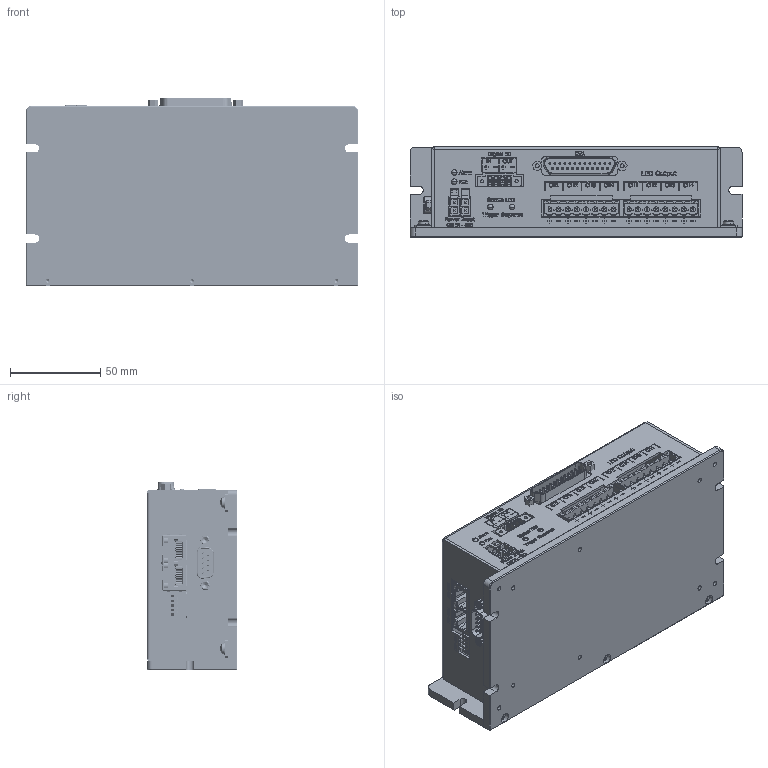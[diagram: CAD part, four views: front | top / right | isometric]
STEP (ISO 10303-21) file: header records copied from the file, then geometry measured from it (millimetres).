
FILE_DESCRIPTION (( 'STEP AP214' ), '1' );
FILE_NAME ('COM8_ASSY.STEP', '2025-02-24T08:11:51', ( '' ), ( '' ), 'SwSTEP 2.0', 'SolidWorks 2025', '' );
FILE_SCHEMA (( 'AUTOMOTIVE_DESIGN' ));
Length unit declared in the file: millimetre
Products named in the file (22): DB25_M; 395061004; BOLT_ASSY; SUBD_25_M; COM8_COVER_기본<가공 상태>; Rev1TopPCB; jis b 1256 finished circular 3_JIS B 1256 Finished circular 3; COM8_TOP_PCB; Rev1led_everlight_3mm_90_degrees_green_Valor predeterminado; Rev1DS1040-04RT; COM8_REAR; COM8_TOP_PCB_ASSY; 38276; Support; Rev1SubPCB; COM8_BASEPLATE; Rev1026013114; Rev1VCC - 553-0122 CBI 2POS Bi-Level LED; COM8_ASSY; Rev1d-sub_9pin_right_angle_pcb; jis b 1111 cross recessed pan head screw - m3 x 4 - z --4n_JIS B 1111 Cross recessed pan head screw - M3 x 4 - Z --4N; Rev12xRJ45 Modular Jack - TE Connectivity 5-6610000-1
Assembly tree (27 placements, depth 4):
  COM8_ASSY
    COM8_BASEPLATE
    COM8_TOP_PCB_ASSY
      COM8_TOP_PCB
      38276  x2
      Rev1026013114  x2
      Rev1d-sub_9pin_right_angle_pcb
      Rev1SubPCB
        Rev1TopPCB
        Rev1DS1040-04RT
        Rev12xRJ45 Modular Jack - TE Connectivity 5-6610000-1
        Rev1VCC - 553-0122 CBI 2POS Bi-Level LED
        395061004
      Rev1led_everlight_3mm_90_degrees_green_Valor predeterminado  x2
    SUBD_25_M
      DB25_M
      Support
    COM8_REAR
    COM8_COVER_기본<가공 상태>
    BOLT_ASSY  x4
      jis b 1111 cross recessed pan head screw - m3 x 4 - z --4n_JIS B 1111 Cross recessed pan head screw - M3 x 4 - Z --4N
      jis b 1256 finished circular 3_JIS B 1256 Finished circular 3
Bounding box: 184 x 50 x 104.57 mm (x, y, z)
Volume: 233196.6 mm3; surface area: 191365.1 mm2
Topology: 85 solids, 85 shells, 7358 faces, 19381 edges, 12445 vertices
Faces by surface type: plane 4536, cylinder 1281, bspline 1103, sphere 222, cone 184, torus 32
Entity records: 335719 total; most frequent: CARTESIAN_POINT 113048, ORIENTED_EDGE 34496, DIRECTION 28287, EDGE_CURVE 17248, LINE 12097, VECTOR 12097, VERTEX_POINT 11183, AXIS2_PLACEMENT_3D 8095
